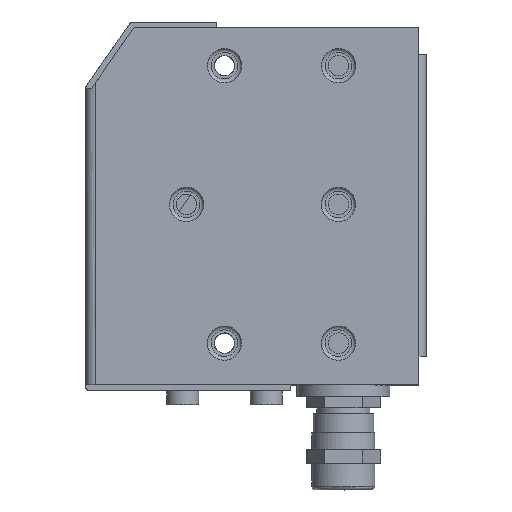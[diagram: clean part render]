
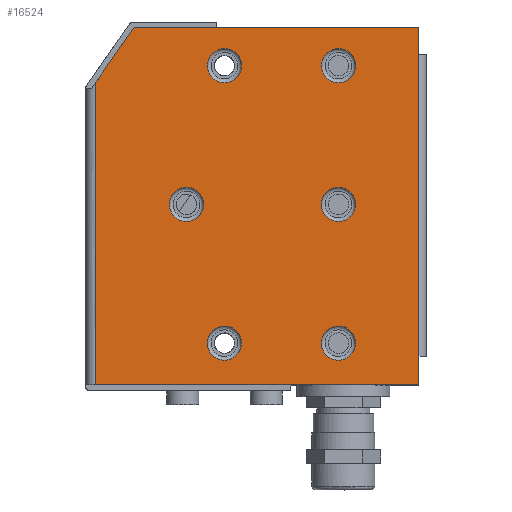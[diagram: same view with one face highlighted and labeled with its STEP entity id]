
A CAD part, top view. The second image highlights one B-rep face of the part: STEP entity #16524.
In plain terms, the highlighted free-form (B-spline) face has degree [1, 1] with [2, 2] control points.
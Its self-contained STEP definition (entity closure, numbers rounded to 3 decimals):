
#1125=CARTESIAN_POINT('V257',(62.,11.,
   19.5));
#1126=VERTEX_POINT('V257',#1125);
#1134=CARTESIAN_POINT('E356',(62.,11.,
   19.5));
#1135=CARTESIAN_POINT('E356',(62.,18.794,
   19.5));
#1136=CARTESIAN_POINT('E356',(68.75,14.897,
   19.5));
#1137=CARTESIAN_POINT('E356',(75.5,11.,
   19.5));
#1138=CARTESIAN_POINT('E356',(68.75,7.103,
   19.5));
#1139=CARTESIAN_POINT('E356',(62.,3.206,
   19.5));
#1140=CARTESIAN_POINT('E356',(62.,11.,
   19.5));
#1148=(BOUNDED_CURVE()B_SPLINE_CURVE(2,(#1134,#1135,#1136,#1137,
   #1138,#1139,#1140),.CIRCULAR_ARC.,.T.,.U.)
   B_SPLINE_CURVE_WITH_KNOTS((3,2,2,3),(0.0,0.333,
   0.667,1.0),.UNSPECIFIED.)CURVE()
   GEOMETRIC_REPRESENTATION_ITEM()RATIONAL_B_SPLINE_CURVE((1.0,
   0.5,1.0,0.5,1.0,0.5,1.0)
   )REPRESENTATION_ITEM('E356'));
#1149=EDGE_CURVE('E356',#1126,#1126,#1148,.T.);
#1350=CARTESIAN_POINT('V259',(62.,47.5,
   19.5));
#1351=VERTEX_POINT('V259',#1350);
#1359=CARTESIAN_POINT('E358',(62.,47.5,
   19.5));
#1360=CARTESIAN_POINT('E358',(62.,55.294,
   19.5));
#1361=CARTESIAN_POINT('E358',(68.75,51.397,
   19.5));
#1362=CARTESIAN_POINT('E358',(75.5,47.5,
   19.5));
#1363=CARTESIAN_POINT('E358',(68.75,43.603,
   19.5));
#1364=CARTESIAN_POINT('E358',(62.,39.706,
   19.5));
#1365=CARTESIAN_POINT('E358',(62.,47.5,
   19.5));
#1373=(BOUNDED_CURVE()B_SPLINE_CURVE(2,(#1359,#1360,#1361,#1362,
   #1363,#1364,#1365),.CIRCULAR_ARC.,.T.,.U.)
   B_SPLINE_CURVE_WITH_KNOTS((3,2,2,3),(0.0,0.333,
   0.667,1.0),.UNSPECIFIED.)CURVE()
   GEOMETRIC_REPRESENTATION_ITEM()RATIONAL_B_SPLINE_CURVE((1.0,
   0.5,1.0,0.5,1.0,0.5,1.0)
   )REPRESENTATION_ITEM('E358'));
#1374=EDGE_CURVE('E358',#1351,#1351,#1373,.T.);
#1713=CARTESIAN_POINT('V261',(71.,84.,
   19.5));
#1714=VERTEX_POINT('V261',#1713);
#1722=CARTESIAN_POINT('E360',(71.,84.,
   19.5));
#1723=CARTESIAN_POINT('E360',(71.,76.206,
   19.5));
#1724=CARTESIAN_POINT('E360',(64.25,80.103,
   19.5));
#1725=CARTESIAN_POINT('E360',(57.5,84.,
   19.5));
#1726=CARTESIAN_POINT('E360',(64.25,87.897,
   19.5));
#1727=CARTESIAN_POINT('E360',(71.,91.794,
   19.5));
#1728=CARTESIAN_POINT('E360',(71.,84.,
   19.5));
#1736=(BOUNDED_CURVE()B_SPLINE_CURVE(2,(#1722,#1723,#1724,#1725,
   #1726,#1727,#1728),.CIRCULAR_ARC.,.T.,.U.)
   B_SPLINE_CURVE_WITH_KNOTS((3,2,2,3),(0.0,0.333,
   0.667,1.0),.UNSPECIFIED.)CURVE()
   GEOMETRIC_REPRESENTATION_ITEM()RATIONAL_B_SPLINE_CURVE((1.0,
   0.5,1.0,0.5,1.0,0.5,1.0)
   )REPRESENTATION_ITEM('E360'));
#1737=EDGE_CURVE('E360',#1714,#1714,#1736,.T.);
#1747=CARTESIAN_POINT('V255',(87.5,0.,
   19.5));
#1748=VERTEX_POINT('V255',#1747);
#1763=CARTESIAN_POINT('V256',(87.5,94.,
   19.5));
#1764=VERTEX_POINT('V256',#1763);
#1770=CARTESIAN_POINT('E354',(87.5,0.,
   19.5));
#1771=CARTESIAN_POINT('E354',(87.5,94.,
   19.5));
#1772=B_SPLINE_CURVE_WITH_KNOTS('E354',1,(#1770,#1771),
   .POLYLINE_FORM.,.F.,.U.,(2,2),(0.0,1.106),
   .UNSPECIFIED.);
#1773=EDGE_CURVE('E354',#1748,#1764,#1772,.T.);
#4138=CARTESIAN_POINT('V258',(32.,11.,
   19.5));
#4139=VERTEX_POINT('V258',#4138);
#4165=CARTESIAN_POINT('E357',(32.,11.,
   19.5));
#4166=CARTESIAN_POINT('E357',(32.,18.794,
   19.5));
#4167=CARTESIAN_POINT('E357',(38.75,14.897,
   19.5));
#4168=CARTESIAN_POINT('E357',(45.5,11.,
   19.5));
#4169=CARTESIAN_POINT('E357',(38.75,7.103,
   19.5));
#4170=CARTESIAN_POINT('E357',(32.,3.206,
   19.5));
#4171=CARTESIAN_POINT('E357',(32.,11.,
   19.5));
#4179=(BOUNDED_CURVE()B_SPLINE_CURVE(2,(#4165,#4166,#4167,#4168,
   #4169,#4170,#4171),.CIRCULAR_ARC.,.T.,.U.)
   B_SPLINE_CURVE_WITH_KNOTS((3,2,2,3),(0.0,0.333,
   0.667,1.0),.UNSPECIFIED.)CURVE()
   GEOMETRIC_REPRESENTATION_ITEM()RATIONAL_B_SPLINE_CURVE((1.0,
   0.5,1.0,0.5,1.0,0.5,1.0)
   )REPRESENTATION_ITEM('E357'));
#4180=EDGE_CURVE('E357',#4139,#4139,#4179,.T.);
#12885=CARTESIAN_POINT('V260',(31.,47.5,
   19.5));
#12886=VERTEX_POINT('V260',#12885);
#12912=CARTESIAN_POINT('E359',(31.,47.5,
   19.5));
#12913=CARTESIAN_POINT('E359',(31.,39.706,
   19.5));
#12914=CARTESIAN_POINT('E359',(24.25,43.603,
   19.5));
#12915=CARTESIAN_POINT('E359',(17.5,47.5,
   19.5));
#12916=CARTESIAN_POINT('E359',(24.25,51.397,
   19.5));
#12917=CARTESIAN_POINT('E359',(31.,55.294,
   19.5));
#12918=CARTESIAN_POINT('E359',(31.,47.5,
   19.5));
#12926=(BOUNDED_CURVE()B_SPLINE_CURVE(2,(#12912,#12913,#12914,
   #12915,#12916,#12917,#12918),.CIRCULAR_ARC.,.T.,.U.)
   B_SPLINE_CURVE_WITH_KNOTS((3,2,2,3),(0.0,0.333,
   0.667,1.0),.UNSPECIFIED.)CURVE()
   GEOMETRIC_REPRESENTATION_ITEM()RATIONAL_B_SPLINE_CURVE((1.0,
   0.5,1.0,0.5,1.0,0.5,1.0)
   )REPRESENTATION_ITEM('E359'));
#12927=EDGE_CURVE('E359',#12886,#12886,#12926,.T.);
#14852=CARTESIAN_POINT('V262',(41.,84.,
   19.5));
#14853=VERTEX_POINT('V262',#14852);
#14879=CARTESIAN_POINT('E361',(41.,84.,
   19.5));
#14880=CARTESIAN_POINT('E361',(41.,76.206,
   19.5));
#14881=CARTESIAN_POINT('E361',(34.25,80.103,
   19.5));
#14882=CARTESIAN_POINT('E361',(27.5,84.,
   19.5));
#14883=CARTESIAN_POINT('E361',(34.25,87.897,
   19.5));
#14884=CARTESIAN_POINT('E361',(41.,91.794,
   19.5));
#14885=CARTESIAN_POINT('E361',(41.,84.,
   19.5));
#14893=(BOUNDED_CURVE()B_SPLINE_CURVE(2,(#14879,#14880,#14881,
   #14882,#14883,#14884,#14885),.CIRCULAR_ARC.,.T.,.U.)
   B_SPLINE_CURVE_WITH_KNOTS((3,2,2,3),(0.0,0.333,
   0.667,1.0),.UNSPECIFIED.)CURVE()
   GEOMETRIC_REPRESENTATION_ITEM()RATIONAL_B_SPLINE_CURVE((1.0,
   0.5,1.0,0.5,1.0,0.5,1.0)
   )REPRESENTATION_ITEM('E361'));
#14894=EDGE_CURVE('E361',#14853,#14853,#14893,.T.);
#16455=CARTESIAN_POINT('V254',(2.5,0.,
   19.5));
#16456=VERTEX_POINT('V254',#16455);
#16457=CARTESIAN_POINT('E353',(2.5,0.,
   19.5));
#16458=CARTESIAN_POINT('E353',(87.5,0.,
   19.5));
#16459=QUASI_UNIFORM_CURVE('E353',1,(#16457,#16458),.POLYLINE_FORM.,
   .F.,.U.);
#16460=EDGE_CURVE('E353',#16456,#1748,#16459,.T.);
#16478=CARTESIAN_POINT('F110',(1.9,-0.6,
   19.5));
#16479=CARTESIAN_POINT('F110',(88.1,-0.6,
   19.5));
#16480=CARTESIAN_POINT('F110',(1.9,94.6,
   19.5));
#16481=CARTESIAN_POINT('F110',(88.1,94.6,
   19.5));
#16482=B_SPLINE_SURFACE_WITH_KNOTS('F110',1,1,((#16478,#16480),(
   #16479,#16481)),.PLANE_SURF.,.F.,.F.,.U.,(2,2),(2,2),(0.0,1.0),
   (0.0,1.104),.UNSPECIFIED.);
#16483=CARTESIAN_POINT('V252',(12.703,94.,
   19.5));
#16484=VERTEX_POINT('V252',#16483);
#16485=CARTESIAN_POINT('V253',(2.5,79.428,
   19.5));
#16486=VERTEX_POINT('V253',#16485);
#16487=CARTESIAN_POINT('E351',(12.703,94.,
   19.5));
#16488=CARTESIAN_POINT('E351',(2.5,79.428,
   19.5));
#16489=QUASI_UNIFORM_CURVE('E351',1,(#16487,#16488),.POLYLINE_FORM.,
   .F.,.U.);
#16490=EDGE_CURVE('E351',#16484,#16486,#16489,.T.);
#16491=ORIENTED_EDGE('E351',*,*,#16490,.T.);
#16492=CARTESIAN_POINT('E352',(2.5,0.,
   19.5));
#16493=CARTESIAN_POINT('E352',(2.5,79.428,
   19.5));
#16494=B_SPLINE_CURVE_WITH_KNOTS('E352',1,(#16492,#16493),
   .POLYLINE_FORM.,.F.,.U.,(2,2),(0.0,15.886),
   .UNSPECIFIED.);
#16495=EDGE_CURVE('E352',#16456,#16486,#16494,.T.);
#16496=ORIENTED_EDGE('E352',*,*,#16495,.F.);
#16497=ORIENTED_EDGE('E353',*,*,#16460,.T.);
#16498=ORIENTED_EDGE('F149',*,*,#1773,.T.);
#16499=CARTESIAN_POINT('E355',(87.5,94.,
   19.5));
#16500=CARTESIAN_POINT('E355',(12.703,94.,
   19.5));
#16501=B_SPLINE_CURVE_WITH_KNOTS('E355',1,(#16499,#16500),
   .POLYLINE_FORM.,.F.,.U.,(2,2),(0.0,0.88),
   .UNSPECIFIED.);
#16502=EDGE_CURVE('E355',#1764,#16484,#16501,.T.);
#16503=ORIENTED_EDGE('E355',*,*,#16502,.T.);
#16504=EDGE_LOOP('F110',(#16491,#16496,#16497,#16498,#16503));
#16505=FACE_OUTER_BOUND('F110',#16504,.T.);
#16506=ORIENTED_EDGE('F169',*,*,#14894,.T.);
#16507=EDGE_LOOP('F110',(#16506));
#16508=FACE_BOUND('F110',#16507,.T.);
#16509=ORIENTED_EDGE('F126',*,*,#1737,.T.);
#16510=EDGE_LOOP('F110',(#16509));
#16511=FACE_BOUND('F110',#16510,.T.);
#16512=ORIENTED_EDGE('F173',*,*,#12927,.T.);
#16513=EDGE_LOOP('F110',(#16512));
#16514=FACE_BOUND('F110',#16513,.T.);
#16515=ORIENTED_EDGE('F120',*,*,#1374,.T.);
#16516=EDGE_LOOP('F110',(#16515));
#16517=FACE_BOUND('F110',#16516,.T.);
#16518=ORIENTED_EDGE('F178',*,*,#4180,.T.);
#16519=EDGE_LOOP('F110',(#16518));
#16520=FACE_BOUND('F110',#16519,.T.);
#16521=ORIENTED_EDGE('F115',*,*,#1149,.T.);
#16522=EDGE_LOOP('F110',(#16521));
#16523=FACE_BOUND('F110',#16522,.T.);
#16524=ADVANCED_FACE('F110',(#16505,#16508,#16511,#16514,#16517,
   #16520,#16523),#16482,.T.);
